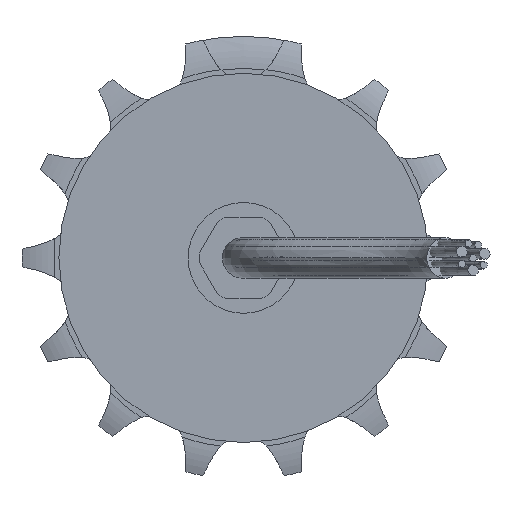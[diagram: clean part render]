
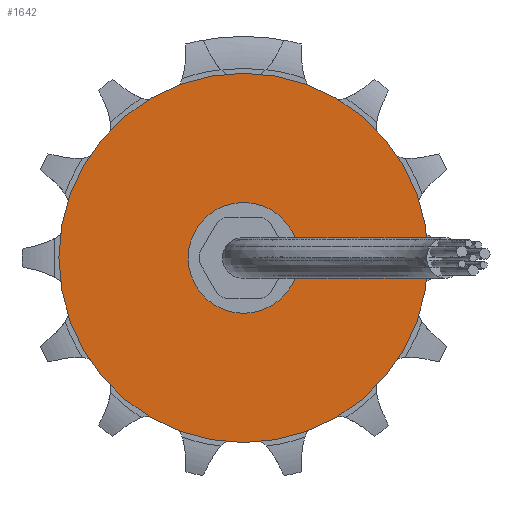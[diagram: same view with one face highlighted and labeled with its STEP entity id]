
A CAD part, left-side view. The second image highlights one B-rep face of the part: STEP entity #1642.
In plain terms, the highlighted planar face has unit normal (-1, 0, 0).
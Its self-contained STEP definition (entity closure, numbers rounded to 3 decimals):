
#1226=PLANE('',#6156);
#1327=FACE_OUTER_BOUND('',#2237,.T.);
#1642=ADVANCED_FACE('',(#1327),#1226,.T.);
#2237=EDGE_LOOP('',(#2619));
#2619=ORIENTED_EDGE('',*,*,#5037,.T.);
#4421=VERTEX_POINT('',#8061);
#5037=EDGE_CURVE('',#4421,#4421,#5939,.T.);
#5939=CIRCLE('',#6153,25.);
#6153=AXIS2_PLACEMENT_3D('',#8060,#6707,#6708);
#6156=AXIS2_PLACEMENT_3D('',#8065,#6713,#6714);
#6707=DIRECTION('',(-1.,0.,0.));
#6708=DIRECTION('',(0.,1.,0.));
#6713=DIRECTION('',(-1.,0.,0.));
#6714=DIRECTION('',(0.,0.,1.));
#8060=CARTESIAN_POINT('',(-318.5,0.,0.));
#8061=CARTESIAN_POINT('',(-318.5,25.,0.));
#8065=CARTESIAN_POINT('',(-318.5,0.,0.));
